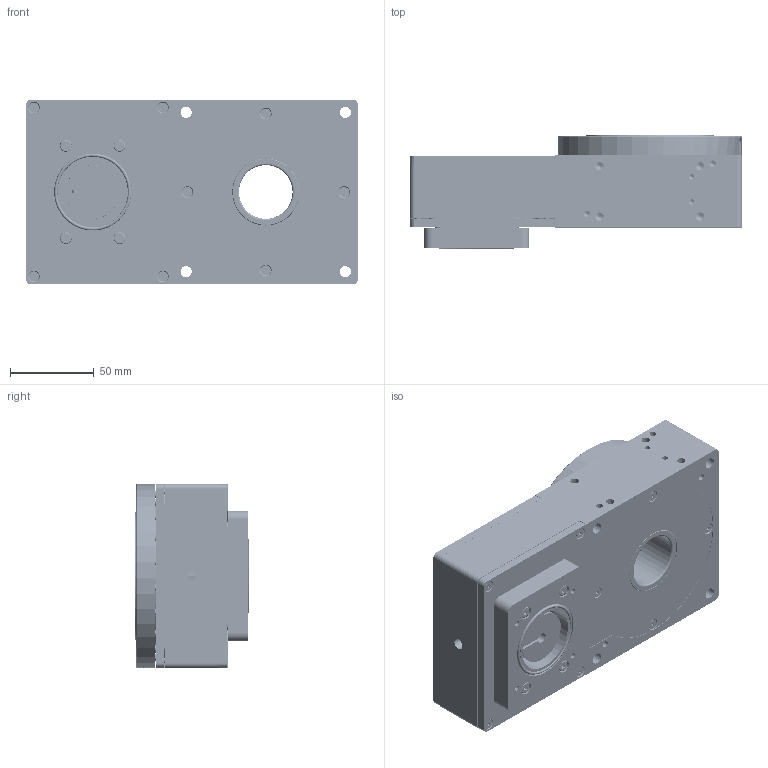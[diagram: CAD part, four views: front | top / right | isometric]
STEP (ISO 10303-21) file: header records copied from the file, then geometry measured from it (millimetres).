
FILE_DESCRIPTION (( 'STEP AP203' ), '1' );
FILE_NAME ('MDT360110-QN-MU-B.STEP', '2022-04-19T14:19:18', ( '' ), ( '' ), 'SwSTEP 2.0', 'SolidWorks 2019', '' );
FILE_SCHEMA (( 'CONFIG_CONTROL_DESIGN' ));
Products named in the file (1): MDT360110-QN-MU-B
Bounding box: 198 x 67.5 x 110 mm (x, y, z)
Volume: 827629.5 mm3; surface area: 361980.8 mm2
Topology: 114 solids, 114 shells, 4282 faces, 10384 edges, 6489 vertices
Faces by surface type: cylinder 2002, plane 1263, cone 679, torus 336, bspline 2
Entity records: 127796 total; most frequent: CARTESIAN_POINT 24594, DIRECTION 23251, ORIENTED_EDGE 20480, EDGE_CURVE 10240, AXIS2_PLACEMENT_3D 9333, VERTEX_POINT 6489, CIRCLE 5052, EDGE_LOOP 4859
